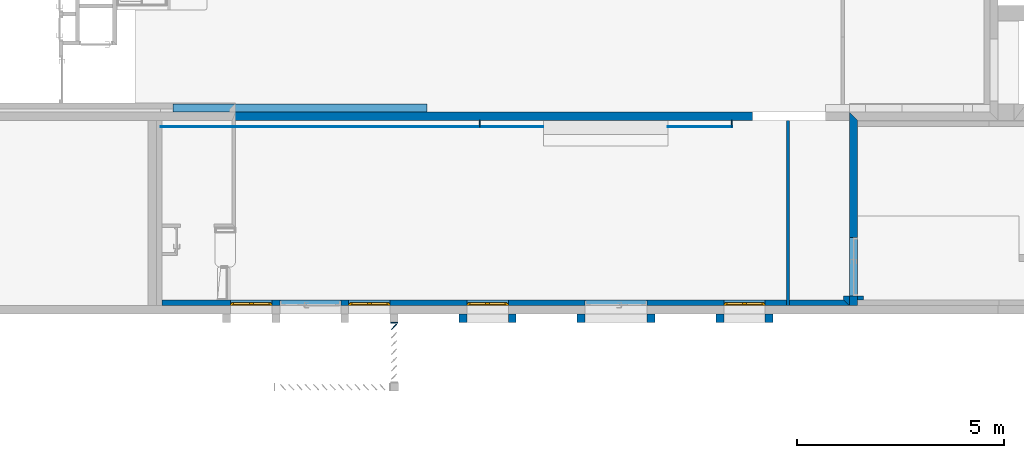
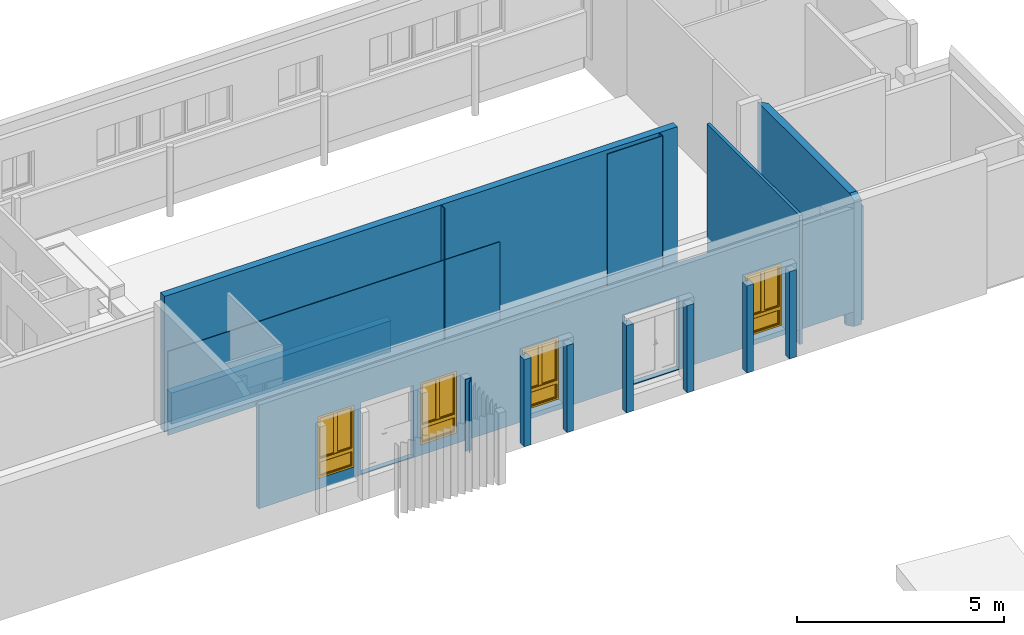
# One storey, part 4 of 34: 19 walls, 4 windows, 7 openings.
"""IFC2X3 building model written with IfcOpenShell, lengths in metres."""

from ifc_helpers import new_model, entity, si_unit, converted_unit, derived_unit, money_unit, direction, frame, origin_with_axes, origin_2d_with_axis, place, context, subcontext, project, spatial, polyline, rectangle, outline, extrude, clip, halfspace, open_shell, faceted_brep, surface_model, source, transform, mapped, material, layer, layer_set, layer_usage, type_object, element, fill, save


model = new_model("IFC2X3")

# Units and contexts
model_context = context("Model", 3, precision=1e-05, world=origin_with_axes(), true_north=direction((0.0, 1.0)))
body_context = subcontext(model_context, "Body", "Model", "MODEL_VIEW")
ifc_project = project(units=[si_unit("LENGTHUNIT", "METRE"), si_unit("AREAUNIT", "SQUARE_METRE"), si_unit("VOLUMEUNIT", "CUBIC_METRE"), converted_unit("PLANEANGLEUNIT", "DEGREE", entity("IfcPlaneAngleMeasure", 0.0174532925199), si_unit("PLANEANGLEUNIT", "RADIAN"), dimensions=[0, 0, 0, 0, 0, 0, 0]), money_unit("CHF"), converted_unit("TIMEUNIT", "Year", entity("IfcTimeMeasure", 31556926.0), si_unit("TIMEUNIT", "SECOND"), dimensions=[0, 0, 1, 0, 0, 0, 0]), si_unit("MASSUNIT", "GRAM", prefix="KILO"), si_unit("THERMODYNAMICTEMPERATUREUNIT", "DEGREE_CELSIUS"), si_unit("LUMINOUSINTENSITYUNIT", "LUMEN"), si_unit("ENERGYUNIT", "JOULE", prefix="MEGA"), derived_unit("THERMALCONDUCTANCEUNIT", [(si_unit("POWERUNIT", "WATT"), 1), (si_unit("LENGTHUNIT", "METRE"), -1), (si_unit("THERMODYNAMICTEMPERATUREUNIT", "KELVIN"), -1)]), derived_unit("SPECIFICHEATCAPACITYUNIT", [(si_unit("ENERGYUNIT", "JOULE"), 1), (si_unit("MASSUNIT", "GRAM", prefix="KILO"), -1), (si_unit("THERMODYNAMICTEMPERATUREUNIT", "KELVIN"), -1)]), derived_unit("MASSDENSITYUNIT", [(si_unit("MASSUNIT", "GRAM", prefix="KILO"), 1), (si_unit("VOLUMEUNIT", "CUBIC_METRE"), -1)])], contexts=[model_context])

# Site, building, storey
site_placement = place(None, origin_with_axes())
site = spatial("IfcSite", under=ifc_project, at=site_placement, Name="Site", CompositionType="ELEMENT")
building_placement = place(site_placement, origin_with_axes())
building = spatial("IfcBuilding", under=site, at=building_placement, Name="Bâtiment", CompositionType="ELEMENT")
storey_placement = place(building_placement, origin_with_axes())
storey = spatial("IfcBuildingStorey", under=building, at=storey_placement, Name="RDC", CompositionType="ELEMENT", Elevation=-5.32907e-15)

# Wall, opening
ifc_material_1 = material(Name="Diagonales 1167258944")
ifc_layer_1 = layer(ifc_material_1, 0.2, ventilated="UNKNOWN")
ifc_layer_set_1 = layer_set([ifc_layer_1], Name="Diagonales 1167258944 0.2")
ifc_layer_usage_1 = layer_usage(ifc_layer_set_1, "AXIS2", "NEGATIVE", 0.0)
wall_type_1 = type_object("IfcWallType", Name="Diagonales 1167258944 200", PredefinedType="NOTDEFINED")
wall_1_placement = place(storey_placement, frame((1692.16729001, 177.38004191, 0.0), z_axis=(0.0, 0.0, 1.0), x_axis=(0.0, 1.0, 0.0)))
wall_1 = element("IfcWallStandardCase", 1, at=wall_1_placement, inside=storey, type_object=wall_type_1, material=ifc_layer_usage_1, Name="Mur-009", context=body_context, shape_type="Clipping", body=[
    clip(extrude(outline(polyline([(0.2, -0.2), (4.67, -0.2), (4.87, 0.0), (0.2, 0.0), (0.2, -0.2)])), origin_with_axes(), (0.0, 0.0, 1.0), 3.8), halfspace(frame((-1.35194463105, 0.0, 3.00400550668), z_axis=(0.410400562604, 0.0, -0.911905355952), x_axis=(0.0, 1.0, 0.0)), True)),
])
opening_1_placement = place(wall_1_placement, frame((1.14, 0.0, 0.47), z_axis=(0.0, 0.0, 1.0), x_axis=(1.0, 0.0, 0.0)))
element("IfcOpeningElement", 2, at=opening_1_placement, cuts=wall_1, Name="Por-006", context=body_context, shape_type="SweptSolid", body=[
    extrude(rectangle(XDim=1.4, YDim=2.1, at=origin_2d_with_axis()), frame((0.0, 0.2, 1.05), z_axis=(0.0, 1.0, 0.0), x_axis=(-1.0, 0.0, 0.0)), (0.0, 0.0, -1.0), 0.6),
])

# Walls
ifc_layer_usage_2 = layer_usage(ifc_layer_set_1, "AXIS2", "POSITIVE", 0.0)
wall_2_placement = place(storey_placement, frame((1675.84729001, 182.25004191, 0.0), z_axis=(0.0, 0.0, 1.0), x_axis=(1.0, 0.0, 0.0)))
element("IfcWallStandardCase", 3, at=wall_2_placement, inside=storey, type_object=wall_type_1, material=ifc_layer_usage_2, Name="Mur-002", context=body_context, shape_type="SweptSolid", body=[
    extrude(outline(polyline([(0.0, 0.0), (6.12425264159, 0.0), (6.12425264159, 0.2), (0.0, 0.2), (0.0, 0.0)])), origin_with_axes(), (0.0, 0.0, 1.0), 0.92),
])
ifc_layer_usage_3 = layer_usage(ifc_layer_set_1, "AXIS2", "NEGATIVE", 0.0)
wall_3_placement = place(storey_placement, frame((1689.82729035, 182.05004191, 0.0), z_axis=(0.0, 0.0, 1.0), x_axis=(-1.0, 0.0, 0.0)))
element("IfcWallStandardCase", 4, at=wall_3_placement, inside=storey, type_object=wall_type_1, material=ifc_layer_usage_3, Name="Mur-005", context=body_context, shape_type="SweptSolid", body=[
    extrude(outline(polyline([(0.0, -0.2), (14.2800003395, -0.2), (14.2800003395, 0.0), (0.0, 0.0), (0.0, -0.2)])), origin_with_axes(), (0.0, 0.0, 1.0), 4.0),
])

# Wall, openings, windows
ifc_material_2 = material(Name="Isolation laine de pierre 378182646")
ifc_layer_2 = layer(ifc_material_2, 0.12, ventilated="UNKNOWN")
ifc_material_3 = material(Name="Plâtre lissé 291446788")
ifc_layer_3 = layer(ifc_material_3, 0.02, ventilated="UNKNOWN")
ifc_layer_set_2 = layer_set([ifc_layer_2, ifc_layer_3], Name="DOUBLAGE ISO + BA13 14 CM")
ifc_layer_usage_4 = layer_usage(ifc_layer_set_2, "AXIS2", "POSITIVE", 0.0)
wall_type_2 = type_object("IfcWallType", Name="DOUBLAGE ISO + BA13 14 CM 140", PredefinedType="NOTDEFINED")
wall_4_placement = place(storey_placement, frame((1675.44729001, 177.58004191, 0.44), z_axis=(0.0, 0.0, 1.0), x_axis=(1.0, 0.0, 0.0)))
wall_4 = element("IfcWallStandardCase", 5, at=wall_4_placement, inside=storey, type_object=wall_type_2, material=ifc_layer_usage_4, Name="Mur-005", context=body_context, shape_type="SweptSolid", body=[
    extrude(outline(polyline([(0.14, 0.0), (16.71995181, 0.0), (16.57995181, 0.14), (0.14, 0.14), (0.14, 0.0)])), origin_with_axes(), (0.0, 0.0, 1.0), 3.05067199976),
])
opening_2_placement = place(wall_4_placement, frame((5.14, 0.0, 0.31), z_axis=(0.0, 0.0, 1.0), x_axis=(1.0, 0.0, 0.0)))
opening_2 = element("IfcOpeningElement", 6, at=opening_2_placement, cuts=wall_4, Name="Fen-003", context=body_context, shape_type="SweptSolid", body=[
    extrude(rectangle(XDim=1.0, YDim=1.82, at=origin_2d_with_axis()), frame((0.0, 0.14, 0.91), z_axis=(0.0, 1.0, 0.0), x_axis=(-1.0, 0.0, 0.0)), (0.0, 0.0, -1.0), 0.42),
])
opening_3_placement = place(wall_4_placement, frame((7.99, 0.0, 0.31), z_axis=(0.0, 0.0, 1.0), x_axis=(1.0, 0.0, 0.0)))
opening_3 = element("IfcOpeningElement", 7, at=opening_3_placement, cuts=wall_4, Name="Fen-003", context=body_context, shape_type="SweptSolid", body=[
    extrude(rectangle(XDim=1.0, YDim=1.82, at=origin_2d_with_axis()), frame((0.0, 0.14, 0.91), z_axis=(0.0, 1.0, 0.0), x_axis=(-1.0, 0.0, 0.0)), (0.0, 0.0, -1.0), 0.42),
])
opening_4_placement = place(wall_4_placement, frame((14.19, 0.0, 0.31), z_axis=(0.0, 0.0, 1.0), x_axis=(1.0, 0.0, 0.0)))
opening_4 = element("IfcOpeningElement", 8, at=opening_4_placement, cuts=wall_4, Name="Fen-003", context=body_context, shape_type="SweptSolid", body=[
    extrude(rectangle(XDim=1.0, YDim=1.82, at=origin_2d_with_axis()), frame((0.0, 0.14, 0.91), z_axis=(0.0, 1.0, 0.0), x_axis=(-1.0, 0.0, 0.0)), (0.0, 0.0, -1.0), 0.42),
])
opening_5_placement = place(wall_4_placement, frame((2.29, 0.0, 0.31), z_axis=(0.0, 0.0, 1.0), x_axis=(1.0, 0.0, 0.0)))
opening_5 = element("IfcOpeningElement", 9, at=opening_5_placement, cuts=wall_4, Name="Fen-004", context=body_context, shape_type="SweptSolid", body=[
    extrude(rectangle(XDim=1.0, YDim=1.82, at=origin_2d_with_axis()), frame((0.0, 0.14, 0.91), z_axis=(0.0, 1.0, 0.0), x_axis=(-1.0, 0.0, 0.0)), (0.0, 0.0, -1.0), 0.42),
])
opening_6_placement = place(wall_4_placement, frame((11.09, 0.0, 0.03), z_axis=(0.0, 0.0, 1.0), x_axis=(1.0, 0.0, 0.0)))
element("IfcOpeningElement", 10, at=opening_6_placement, cuts=wall_4, Name="Por-006", context=body_context, shape_type="SweptSolid", body=[
    extrude(rectangle(XDim=1.5, YDim=2.1, at=origin_2d_with_axis()), frame((0.0, 0.14, 1.05), z_axis=(0.0, -1.0, 0.0), x_axis=(-1.0, 0.0, 0.0)), (0.0, 0.0, 1.0), 0.42),
])
opening_7_placement = place(wall_4_placement, frame((3.715, 0.0, 0.03), z_axis=(0.0, 0.0, 1.0), x_axis=(1.0, 0.0, 0.0)))
element("IfcOpeningElement", 11, at=opening_7_placement, cuts=wall_4, Name="Por-006", context=body_context, shape_type="SweptSolid", body=[
    extrude(rectangle(XDim=1.47, YDim=2.1, at=origin_2d_with_axis()), frame((0.0, 0.14, 1.05), z_axis=(0.0, 1.0, 0.0), x_axis=(1.0, 0.0, 0.0)), (0.0, 0.0, -1.0), 0.42),
])
window_style = type_object("IfcWindowStyle", Name="Fenêtre châssis double 25", ConstructionType="NOTDEFINED", OperationType="TRIPLE_PANEL_BOTTOM", ParameterTakesPrecedence=False, Sizeable=False)
shared_shape = source(origin_with_axes(), body_context, "Body", "SurfaceModel", [
    faceted_brep([(0.475, 0.0, 1.77), (0.475, -0.025, 1.77), (0.45, -0.025, 1.77), (0.45, -0.05, 1.77), (0.5, -0.05, 1.77), (0.5, 0.0, 1.77), (0.475, 0.0, 0.545), (0.475, -0.025, 0.545), (0.45, -0.025, 0.57), (0.45, -0.025, 0.545), (0.45, -0.05, 0.57), (0.45, -0.05, 0.47), (0.45, -0.05, 0.05), (0.5, -0.05, 0.05), (0.5, 0.0, 0.05), (0.475, 0.0, 0.05), (0.475, 0.0, 0.495), (0.45, 0.0, 0.495), (0.45, 0.0, 0.545), (0.45, -0.025, 0.495), (0.45, -0.025, 0.47), (0.45, -0.025, 0.05), (0.475, -0.025, 0.05), (0.475, -0.025, 0.495)], [[[0, 1, 2, 3, 4, 5]], [[1, 0, 6, 7]], [[8, 2, 1, 7, 9]], [[2, 8, 10, 3]], [[10, 11, 12, 13, 4, 3]], [[5, 4, 13, 14]], [[6, 0, 5, 14, 15, 16, 17, 18]], [[6, 18, 9, 7]], [[9, 18, 17, 19, 20, 11, 10, 8]], [[20, 21, 12, 11]], [[22, 15, 14, 13, 12, 21]], [[16, 15, 22, 23]], [[19, 17, 16, 23]], [[20, 19, 23, 22, 21]]]),
    faceted_brep([(-0.45, -0.025, 1.77), (-0.475, -0.025, 1.77), (-0.475, 0.0, 1.77), (-0.5, 0.0, 1.77), (-0.5, -0.05, 1.77), (-0.45, -0.05, 1.77), (-0.45, -0.025, 0.57), (-0.45, -0.025, 0.545), (-0.475, -0.025, 0.545), (-0.475, 0.0, 0.545), (-0.45, 0.0, 0.545), (-0.45, 0.0, 0.495), (-0.475, 0.0, 0.495), (-0.475, 0.0, 0.05), (-0.5, 0.0, 0.05), (-0.5, -0.05, 0.05), (-0.45, -0.05, 0.05), (-0.45, -0.05, 0.47), (-0.45, -0.05, 0.57), (-0.45, -0.025, 0.47), (-0.45, -0.025, 0.495), (-0.475, -0.025, 0.495), (-0.475, -0.025, 0.05), (-0.45, -0.025, 0.05)], [[[0, 1, 2, 3, 4, 5]], [[1, 0, 6, 7, 8]], [[9, 2, 1, 8]], [[9, 10, 11, 12, 13, 14, 3, 2]], [[14, 15, 4, 3]], [[15, 16, 17, 18, 5, 4]], [[6, 0, 5, 18]], [[7, 6, 18, 17, 19, 20, 11, 10]], [[10, 9, 8, 7]], [[12, 11, 20, 21]], [[13, 12, 21, 22]], [[22, 23, 16, 15, 14, 13]], [[23, 19, 17, 16]], [[23, 22, 21, 20, 19]]]),
    faceted_brep([(0.45, -0.025, 0.57), (-0.45, -0.025, 0.57), (-0.45, -0.05, 0.57), (0.45, -0.05, 0.57), (-0.45, -0.025, 0.545), (0.45, -0.025, 0.545), (-0.45, 0.0, 0.545), (-0.45, 0.0, 0.495), (-0.45, -0.025, 0.495), (-0.45, -0.025, 0.47), (-0.45, -0.05, 0.47), (0.45, -0.05, 0.47), (0.45, -0.025, 0.47), (0.45, -0.025, 0.495), (0.45, 0.0, 0.495), (0.45, 0.0, 0.545)], [[[0, 1, 2, 3]], [[4, 1, 0, 5]], [[4, 6, 7, 8, 9, 10, 2, 1]], [[10, 11, 3, 2]], [[5, 0, 3, 11, 12, 13, 14, 15]], [[15, 6, 4, 5]], [[6, 15, 14, 7]], [[8, 7, 14, 13]], [[9, 8, 13, 12]], [[9, 12, 11, 10]]]),
    faceted_brep([(-0.45, -0.025, 0.05), (-0.475, -0.025, 0.05), (-0.475, 0.0, 0.05), (-0.5, 0.0, 0.05), (-0.5, -0.05, 0.05), (-0.45, -0.05, 0.05), (0.45, -0.025, 0.05), (0.475, -0.025, 0.05), (0.475, -0.025, 0.025), (-0.475, -0.025, 0.025), (-0.475, 0.0, 0.025), (0.475, 0.0, 0.025), (0.475, 0.0, 0.05), (0.5, 0.0, 0.05), (0.5, 0.0, 0.0), (-0.5, 0.0, 0.0), (-0.5, -0.05, 0.0), (0.5, -0.05, 0.05), (0.45, -0.05, 0.05), (0.5, -0.05, 0.0)], [[[0, 1, 2, 3, 4, 5]], [[1, 0, 6, 7, 8, 9]], [[10, 2, 1, 9]], [[11, 12, 13, 14, 15, 3, 2, 10]], [[15, 16, 4, 3]], [[17, 18, 5, 4, 16, 19]], [[6, 0, 5, 18]], [[7, 6, 18, 17, 13, 12]], [[7, 12, 11, 8]], [[11, 10, 9, 8]], [[13, 17, 19, 14]], [[14, 19, 16, 15]]]),
    faceted_brep([(0.475, 0.0, 1.77), (0.475, 0.0, 1.795), (-0.475, 0.0, 1.795), (-0.475, 0.0, 1.77), (-0.5, 0.0, 1.77), (-0.5, 0.0, 1.82), (0.5, 0.0, 1.82), (0.5, 0.0, 1.77), (0.475, -0.025, 1.77), (0.475, -0.025, 1.795), (-0.475, -0.025, 1.795), (-0.475, -0.025, 1.77), (-0.45, -0.025, 1.77), (-0.45, -0.05, 1.77), (-0.5, -0.05, 1.77), (-0.5, -0.05, 1.82), (0.5, -0.05, 1.82), (0.5, -0.05, 1.77), (0.45, -0.05, 1.77), (0.45, -0.025, 1.77)], [[[0, 1, 2, 3, 4, 5, 6, 7]], [[1, 0, 8, 9]], [[2, 1, 9, 10]], [[3, 2, 10, 11]], [[11, 12, 13, 14, 4, 3]], [[4, 14, 15, 5]], [[5, 15, 16, 6]], [[6, 16, 17, 7]], [[8, 0, 7, 17, 18, 19]], [[12, 11, 10, 9, 8, 19]], [[12, 19, 18, 13]], [[14, 13, 18, 17, 16, 15]]]),
    faceted_brep([(0.425, -0.025, 1.745), (0.475, -0.025, 1.745), (0.475, 0.025, 1.745), (0.425, 0.025, 1.745), (0.425, -0.025, 0.595), (0.475, -0.025, 0.595), (0.475, 0.025, 0.595), (0.425, 0.025, 0.595)], [[[0, 1, 2, 3]], [[0, 4, 5, 1]], [[1, 5, 6, 2]], [[3, 2, 6, 7]], [[4, 0, 3, 7]], [[5, 4, 7, 6]]]),
    faceted_brep([(0.05, -0.025, 0.595), (0.0, -0.025, 0.595), (0.0, 0.025, 0.595), (0.05, 0.025, 0.595), (0.05, -0.025, 1.745), (0.0, -0.025, 1.745), (0.0, 0.025, 1.745), (0.05, 0.025, 1.745)], [[[0, 1, 2, 3]], [[0, 4, 5, 1]], [[1, 5, 6, 2]], [[3, 2, 6, 7]], [[4, 0, 3, 7]], [[5, 4, 7, 6]]]),
    faceted_brep([(0.0, -0.025, 0.545), (0.0, -0.025, 0.595), (0.0, 0.025, 0.595), (0.0, 0.025, 0.545), (0.475, -0.025, 0.545), (0.475, -0.025, 0.595), (0.425, -0.025, 0.595), (0.05, -0.025, 0.595), (0.05, 0.025, 0.595), (0.425, 0.025, 0.595), (0.475, 0.025, 0.595), (0.475, 0.025, 0.545)], [[[0, 1, 2, 3]], [[0, 4, 5, 6, 7, 1]], [[1, 7, 8, 2]], [[3, 2, 8, 9, 10, 11]], [[4, 0, 3, 11]], [[5, 4, 11, 10]], [[6, 5, 10, 9]], [[7, 6, 9, 8]]]),
    faceted_brep([(0.475, -0.025, 1.795), (0.475, -0.025, 1.745), (0.475, 0.025, 1.745), (0.475, 0.025, 1.795), (0.0, -0.025, 1.795), (0.0, -0.025, 1.745), (0.05, -0.025, 1.745), (0.425, -0.025, 1.745), (0.425, 0.025, 1.745), (0.05, 0.025, 1.745), (0.0, 0.025, 1.745), (0.0, 0.025, 1.795)], [[[0, 1, 2, 3]], [[0, 4, 5, 6, 7, 1]], [[1, 7, 8, 2]], [[3, 2, 8, 9, 10, 11]], [[4, 0, 3, 11]], [[5, 4, 11, 10]], [[6, 5, 10, 9]], [[7, 6, 9, 8]]]),
    surface_model("IfcShellBasedSurfaceModel", [(0.425, -0.01, 0.595), (0.425, -0.01, 1.745), (0.05, -0.01, 1.745), (0.05, -0.01, 0.595)], [open_shell([[[0, 1, 2, 3]]])]),
    surface_model("IfcShellBasedSurfaceModel", [(0.425, 0.01, 0.595), (0.05, 0.01, 0.595), (0.05, 0.01, 1.745), (0.425, 0.01, 1.745)], [open_shell([[[0, 1, 2, 3]]])]),
    faceted_brep([(-0.05, -0.025, 1.745), (0.0, -0.025, 1.745), (0.0, 0.025, 1.745), (-0.05, 0.025, 1.745), (-0.05, -0.025, 0.595), (0.0, -0.025, 0.595), (0.0, 0.025, 0.595), (-0.05, 0.025, 0.595)], [[[0, 1, 2, 3]], [[0, 4, 5, 1]], [[1, 5, 6, 2]], [[3, 2, 6, 7]], [[4, 0, 3, 7]], [[5, 4, 7, 6]]]),
    faceted_brep([(-0.425, -0.025, 0.595), (-0.475, -0.025, 0.595), (-0.475, 0.025, 0.595), (-0.425, 0.025, 0.595), (-0.425, -0.025, 1.745), (-0.475, -0.025, 1.745), (-0.475, 0.025, 1.745), (-0.425, 0.025, 1.745)], [[[0, 1, 2, 3]], [[0, 4, 5, 1]], [[1, 5, 6, 2]], [[3, 2, 6, 7]], [[4, 0, 3, 7]], [[5, 4, 7, 6]]]),
    faceted_brep([(-0.475, -0.025, 0.545), (-0.475, -0.025, 0.595), (-0.475, 0.025, 0.595), (-0.475, 0.025, 0.545), (0.0, -0.025, 0.545), (0.0, -0.025, 0.595), (-0.05, -0.025, 0.595), (-0.425, -0.025, 0.595), (-0.425, 0.025, 0.595), (-0.05, 0.025, 0.595), (0.0, 0.025, 0.595), (0.0, 0.025, 0.545)], [[[0, 1, 2, 3]], [[0, 4, 5, 6, 7, 1]], [[1, 7, 8, 2]], [[3, 2, 8, 9, 10, 11]], [[4, 0, 3, 11]], [[5, 4, 11, 10]], [[6, 5, 10, 9]], [[7, 6, 9, 8]]]),
    faceted_brep([(0.0, -0.025, 1.795), (0.0, -0.025, 1.745), (0.0, 0.025, 1.745), (0.0, 0.025, 1.795), (-0.475, -0.025, 1.795), (-0.475, -0.025, 1.745), (-0.425, -0.025, 1.745), (-0.05, -0.025, 1.745), (-0.05, 0.025, 1.745), (-0.425, 0.025, 1.745), (-0.475, 0.025, 1.745), (-0.475, 0.025, 1.795)], [[[0, 1, 2, 3]], [[0, 4, 5, 6, 7, 1]], [[1, 7, 8, 2]], [[3, 2, 8, 9, 10, 11]], [[4, 0, 3, 11]], [[5, 4, 11, 10]], [[6, 5, 10, 9]], [[7, 6, 9, 8]]]),
    surface_model("IfcShellBasedSurfaceModel", [(-0.05, -0.01, 0.595), (-0.05, -0.01, 1.745), (-0.425, -0.01, 1.745), (-0.425, -0.01, 0.595)], [open_shell([[[0, 1, 2, 3]]])]),
    surface_model("IfcShellBasedSurfaceModel", [(-0.05, 0.01, 0.595), (-0.425, 0.01, 0.595), (-0.425, 0.01, 1.745), (-0.05, 0.01, 1.745)], [open_shell([[[0, 1, 2, 3]]])]),
    faceted_brep([(0.425, -0.025, 0.445), (0.475, -0.025, 0.445), (0.475, 0.025, 0.445), (0.425, 0.025, 0.445), (0.425, -0.025, 0.075), (0.475, -0.025, 0.075), (0.475, 0.025, 0.075), (0.425, 0.025, 0.075)], [[[0, 1, 2, 3]], [[0, 4, 5, 1]], [[1, 5, 6, 2]], [[3, 2, 6, 7]], [[4, 0, 3, 7]], [[5, 4, 7, 6]]]),
    faceted_brep([(-0.425, -0.025, 0.075), (-0.475, -0.025, 0.075), (-0.475, 0.025, 0.075), (-0.425, 0.025, 0.075), (-0.425, -0.025, 0.445), (-0.475, -0.025, 0.445), (-0.475, 0.025, 0.445), (-0.425, 0.025, 0.445)], [[[0, 1, 2, 3]], [[0, 4, 5, 1]], [[1, 5, 6, 2]], [[3, 2, 6, 7]], [[4, 0, 3, 7]], [[5, 4, 7, 6]]]),
    faceted_brep([(-0.475, -0.025, 0.025), (-0.475, -0.025, 0.075), (-0.475, 0.025, 0.075), (-0.475, 0.025, 0.025), (0.475, -0.025, 0.025), (0.475, -0.025, 0.075), (0.425, -0.025, 0.075), (-0.425, -0.025, 0.075), (-0.425, 0.025, 0.075), (0.425, 0.025, 0.075), (0.475, 0.025, 0.075), (0.475, 0.025, 0.025)], [[[0, 1, 2, 3]], [[0, 4, 5, 6, 7, 1]], [[1, 7, 8, 2]], [[3, 2, 8, 9, 10, 11]], [[4, 0, 3, 11]], [[5, 4, 11, 10]], [[6, 5, 10, 9]], [[7, 6, 9, 8]]]),
    faceted_brep([(0.475, -0.025, 0.495), (0.475, -0.025, 0.445), (0.475, 0.025, 0.445), (0.475, 0.025, 0.495), (-0.475, -0.025, 0.495), (-0.475, -0.025, 0.445), (-0.425, -0.025, 0.445), (0.425, -0.025, 0.445), (0.425, 0.025, 0.445), (-0.425, 0.025, 0.445), (-0.475, 0.025, 0.445), (-0.475, 0.025, 0.495)], [[[0, 1, 2, 3]], [[0, 4, 5, 6, 7, 1]], [[1, 7, 8, 2]], [[3, 2, 8, 9, 10, 11]], [[4, 0, 3, 11]], [[5, 4, 11, 10]], [[6, 5, 10, 9]], [[7, 6, 9, 8]]]),
    surface_model("IfcShellBasedSurfaceModel", [(0.425, -0.01, 0.075), (0.425, -0.01, 0.445), (-0.425, -0.01, 0.445), (-0.425, -0.01, 0.075)], [open_shell([[[0, 1, 2, 3]]])]),
    surface_model("IfcShellBasedSurfaceModel", [(0.425, 0.01, 0.075), (-0.425, 0.01, 0.075), (-0.425, 0.01, 0.445), (0.425, 0.01, 0.445)], [open_shell([[[0, 1, 2, 3]]])]),
])
window_1_placement = place(opening_2_placement, frame((-0.5, 0.0, 0.0), z_axis=(0.0, 0.0, 1.0), x_axis=(1.0, 0.0, 0.0)))
window_1 = element("IfcWindow", 12, at=window_1_placement, inside=storey, type_object=window_style, Name="Fen-003", OverallHeight=1.82, OverallWidth=1.0, context=body_context, shape_type="MappedRepresentation", body=[
    mapped(shared_shape, transform((0.5, 0.05, 0.0))),
])
fill(opening_2, window_1)
window_2_placement = place(opening_3_placement, frame((-0.5, 0.0, 0.0), z_axis=(0.0, 0.0, 1.0), x_axis=(1.0, 0.0, 0.0)))
window_2 = element("IfcWindow", 13, at=window_2_placement, inside=storey, type_object=window_style, Name="Fen-003", OverallHeight=1.82, OverallWidth=1.0, context=body_context, shape_type="MappedRepresentation", body=[
    mapped(shared_shape, transform((0.5, 0.05, 0.0))),
])
fill(opening_3, window_2)
window_3_placement = place(opening_4_placement, frame((-0.5, 0.0, 0.0), z_axis=(0.0, 0.0, 1.0), x_axis=(1.0, 0.0, 0.0)))
window_3 = element("IfcWindow", 14, at=window_3_placement, inside=storey, type_object=window_style, Name="Fen-003", OverallHeight=1.82, OverallWidth=1.0, context=body_context, shape_type="MappedRepresentation", body=[
    mapped(shared_shape, transform((0.5, 0.05, 0.0))),
])
fill(opening_4, window_3)
window_4_placement = place(opening_5_placement, frame((-0.5, 0.0, 0.0), z_axis=(0.0, 0.0, 1.0), x_axis=(1.0, 0.0, 0.0)))
window_4 = element("IfcWindow", 15, at=window_4_placement, inside=storey, type_object=window_style, Name="Fen-004", OverallHeight=1.82, OverallWidth=1.0, context=body_context, shape_type="MappedRepresentation", body=[
    mapped(shared_shape, transform((0.5, 0.05, 0.0))),
])
fill(opening_5, window_4)

# Walls
ifc_layer_usage_5 = layer_usage(ifc_layer_set_2, "AXIS2", "POSITIVE", 0.0)
wall_5_placement = place(storey_placement, frame((1692.16724182, 177.58004191, 0.0), z_axis=(0.0, 0.0, 1.0), x_axis=(0.0, 1.0, 0.0)))
element("IfcWallStandardCase", 16, at=wall_5_placement, inside=storey, type_object=wall_type_2, material=ifc_layer_usage_5, Name="Mur-006", context=body_context, shape_type="SweptSolid", body=[
    extrude(outline(polyline([(0.0, 0.0), (0.24, 0.0), (0.24, 0.14), (0.14, 0.14), (0.0, 0.0)])), origin_with_axes(), (0.0, 0.0, 1.0), 3.3599999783),
])
ifc_layer_usage_6 = layer_usage(ifc_layer_set_2, "AXIS2", "NEGATIVE", 0.0)
wall_6_placement = place(storey_placement, frame((1692.36729001, 177.58004191, 0.0), z_axis=(0.0, 0.0, 1.0), x_axis=(0.0, 1.0, 0.0)))
element("IfcWallStandardCase", 17, at=wall_6_placement, inside=storey, type_object=wall_type_2, material=ifc_layer_usage_6, Name="Mur-005", context=body_context, shape_type="SweptSolid", body=[
    extrude(outline(polyline([(0.14, -0.14), (0.24, -0.14), (0.24, 0.0), (0.14, 0.0), (0.14, -0.14)])), origin_with_axes(), (0.0, 0.0, 1.0), 3.3599999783),
])
ifc_material_4 = material(Name="Métal 368073405")
ifc_layer_4 = layer(ifc_material_4, 0.02, ventilated="UNKNOWN")
ifc_layer_set_3 = layer_set([ifc_layer_4], Name="Métal 368073405 0.02")
ifc_layer_usage_7 = layer_usage(ifc_layer_set_3, "AXIS2", "NEGATIVE", 0.0)
wall_type_3 = type_object("IfcWallType", Name="Métal 368073405 20", PredefinedType="NOTDEFINED")
wall_7_placement = place(storey_placement, frame((1681.10005975, 177.18004191, 0.45), z_axis=(0.0, 0.0, 1.0), x_axis=(1.0, 0.0, 0.0)))
element("IfcWallStandardCase", 18, at=wall_7_placement, inside=storey, type_object=wall_type_3, material=ifc_layer_usage_7, Name="Mur-011", context=body_context, shape_type="SweptSolid", body=[
    extrude(outline(polyline([(0.0, -0.02), (0.17446052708, -0.02), (0.17446052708, 0.0), (0.0, 0.0), (0.0, -0.02)])), origin_with_axes(), (0.0, 0.0, 1.0), 2.12),
])
ifc_layer_usage_8 = layer_usage(ifc_layer_set_3, "AXIS2", "POSITIVE", 0.0)
wall_8_placement = place(storey_placement, frame((1681.1256089, 177.000814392, 0.500875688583), z_axis=(0.0, 0.0, 1.0), x_axis=(0.707106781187, 0.707106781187, 0.0)))
element("IfcWallStandardCase", 19, at=wall_8_placement, inside=storey, type_object=wall_type_3, material=ifc_layer_usage_8, Name="Mur-011", context=body_context, shape_type="SweptSolid", body=[
    extrude(outline(polyline([(0.0, 0.0), (0.17446052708, 0.0), (0.17446052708, 0.02), (0.0, 0.02), (0.0, 0.0)])), origin_with_axes(), (0.0, 0.0, 1.0), 2.06912431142),
])
ifc_layer_5 = layer(ifc_material_1, 0.19, ventilated="UNKNOWN")
ifc_layer_set_4 = layer_set([ifc_layer_5], Name="Diagonales 1167258944 0.19")
ifc_layer_usage_9 = layer_usage(ifc_layer_set_4, "AXIS2", "POSITIVE", 0.0)
wall_type_4 = type_object("IfcWallType", Name="Diagonales 1167258944 190", PredefinedType="NOTDEFINED")
wall_9_placement = place(storey_placement, frame((1690.13729001, 177.38004191, 0.0), z_axis=(0.0, 0.0, 1.0), x_axis=(0.0, -1.0, 0.0)))
element("IfcWallStandardCase", 20, at=wall_9_placement, inside=storey, type_object=wall_type_4, material=ifc_layer_usage_9, Name="Mur-006", context=body_context, shape_type="SweptSolid", body=[
    extrude(outline(polyline([(0.0, 0.0), (0.2, 0.0), (0.2, 0.19), (0.0, 0.19), (0.0, 0.0)])), origin_with_axes(), (0.0, 0.0, 1.0), 2.57),
])
ifc_layer_usage_10 = layer_usage(ifc_layer_set_4, "AXIS2", "POSITIVE", 0.0)
wall_10_placement = place(storey_placement, frame((1687.28729001, 177.38004191, 0.0), z_axis=(0.0, 0.0, 1.0), x_axis=(0.0, -1.0, 0.0)))
element("IfcWallStandardCase", 21, at=wall_10_placement, inside=storey, type_object=wall_type_4, material=ifc_layer_usage_10, Name="Mur-008", context=body_context, shape_type="SweptSolid", body=[
    extrude(outline(polyline([(0.0, 0.0), (0.2, 0.0), (0.2, 0.19), (0.0, 0.19), (0.0, 0.0)])), origin_with_axes(), (0.0, 0.0, 1.0), 2.57),
])
ifc_layer_usage_11 = layer_usage(ifc_layer_set_4, "AXIS2", "NEGATIVE", 0.0)
wall_11_placement = place(storey_placement, frame((1682.93729001, 177.38004191, 0.0), z_axis=(0.0, 0.0, 1.0), x_axis=(0.0, -1.0, 0.0)))
element("IfcWallStandardCase", 22, at=wall_11_placement, inside=storey, type_object=wall_type_4, material=ifc_layer_usage_11, Name="Mur-009", context=body_context, shape_type="SweptSolid", body=[
    extrude(outline(polyline([(0.0, -0.19), (0.2, -0.19), (0.2, 0.0), (0.0, 0.0), (0.0, -0.19)])), origin_with_axes(), (0.0, 0.0, 1.0), 2.57),
])
ifc_layer_usage_12 = layer_usage(ifc_layer_set_4, "AXIS2", "POSITIVE", 0.0)
wall_12_placement = place(storey_placement, frame((1683.93729001, 177.38004191, 0.0), z_axis=(0.0, 0.0, 1.0), x_axis=(0.0, -1.0, 0.0)))
element("IfcWallStandardCase", 23, at=wall_12_placement, inside=storey, type_object=wall_type_4, material=ifc_layer_usage_12, Name="Mur-008", context=body_context, shape_type="SweptSolid", body=[
    extrude(outline(polyline([(0.0, 0.0), (0.2, 0.0), (0.2, 0.19), (0.0, 0.19), (0.0, 0.0)])), origin_with_axes(), (0.0, 0.0, 1.0), 2.57),
])
ifc_layer_usage_13 = layer_usage(ifc_layer_set_4, "AXIS2", "NEGATIVE", 0.0)
wall_13_placement = place(storey_placement, frame((1685.78729001, 177.38004191, 0.0), z_axis=(0.0, 0.0, 1.0), x_axis=(0.0, -1.0, 0.0)))
element("IfcWallStandardCase", 24, at=wall_13_placement, inside=storey, type_object=wall_type_4, material=ifc_layer_usage_13, Name="Mur-009", context=body_context, shape_type="SweptSolid", body=[
    extrude(outline(polyline([(0.0, -0.19), (0.2, -0.19), (0.2, 0.0), (0.0, 0.0), (0.0, -0.19)])), origin_with_axes(), (0.0, 0.0, 1.0), 2.57),
])
ifc_layer_usage_14 = layer_usage(ifc_layer_set_4, "AXIS2", "NEGATIVE", 0.0)
wall_14_placement = place(storey_placement, frame((1689.13729001, 177.38004191, 0.0), z_axis=(0.0, 0.0, 1.0), x_axis=(0.0, -1.0, 0.0)))
element("IfcWallStandardCase", 25, at=wall_14_placement, inside=storey, type_object=wall_type_4, material=ifc_layer_usage_14, Name="Mur-007", context=body_context, shape_type="SweptSolid", body=[
    extrude(outline(polyline([(0.0, -0.19), (0.2, -0.19), (0.2, 0.0), (0.0, 0.0), (0.0, -0.19)])), origin_with_axes(), (0.0, 0.0, 1.0), 2.57),
])
ifc_layer_6 = layer(ifc_material_3, 0.018, ventilated="UNKNOWN")
ifc_material_5 = material(Name="Isolation laine de pierre 378641718")
ifc_layer_7 = layer(ifc_material_5, 0.045, ventilated="UNKNOWN")
ifc_layer_8 = layer(ifc_material_3, 0.018, ventilated="UNKNOWN")
ifc_layer_set_5 = layer_set([ifc_layer_6, ifc_layer_7, ifc_layer_8], Name="CLOISON 84/45 iso")
ifc_layer_usage_15 = layer_usage(ifc_layer_set_5, "AXIS2", "NEGATIVE", 0.0)
wall_type_5 = type_object("IfcWallType", Name="CLOISON 84/45 iso 81", PredefinedType="NOTDEFINED")
wall_15_placement = place(storey_placement, frame((1690.64729001, 177.58004191, 0.0), z_axis=(0.0, 0.0, 1.0), x_axis=(0.0, 1.0, 0.0)))
element("IfcWallStandardCase", 26, at=wall_15_placement, inside=storey, type_object=wall_type_5, material=ifc_layer_usage_15, Name="Mur-013", context=body_context, shape_type="SweptSolid", body=[
    extrude(outline(polyline([(0.0, -0.081), (4.47, -0.081), (4.47, 0.0), (0.0, 0.0), (0.0, -0.081)])), origin_with_axes(), (0.0, 0.0, 1.0), 3.8),
])
ifc_material_6 = material(Name="Plâtre cloisons 1818619258")
ifc_layer_9 = layer(ifc_material_6, 0.02, ventilated="UNKNOWN")
ifc_layer_set_6 = layer_set([ifc_layer_9], Name="Plâtre cloisons 1818619258 0.02")
ifc_layer_usage_16 = layer_usage(ifc_layer_set_6, "AXIS2", "NEGATIVE", 0.0)
wall_type_6 = type_object("IfcWallType", Name="Plâtre cloisons 1818619258 20", PredefinedType="NOTDEFINED")
wall_16_placement = place(storey_placement, frame((1689.33729001, 181.89004191, 0.0), z_axis=(0.0, 0.0, 1.0), x_axis=(-1.0, 0.0, 0.0)))
element("IfcWallStandardCase", 27, at=wall_16_placement, inside=storey, type_object=wall_type_6, material=ifc_layer_usage_16, Name="Mur-006", context=body_context, shape_type="SweptSolid", body=[
    extrude(outline(polyline([(0.0, -0.02), (1.55, -0.02), (1.55, 0.0), (0.0, 0.0), (0.0, -0.02)])), origin_with_axes(), (0.0, 0.0, 1.0), 4.0),
])
ifc_layer_usage_17 = layer_usage(ifc_layer_set_6, "AXIS2", "POSITIVE", 0.0)
wall_17_placement = place(storey_placement, frame((1675.54729001, 181.89004191, 0.0), z_axis=(0.0, 0.0, 1.0), x_axis=(1.0, 0.0, 0.0)))
element("IfcWallStandardCase", 28, at=wall_17_placement, inside=storey, type_object=wall_type_6, material=ifc_layer_usage_17, Name="Mur-006", context=body_context, shape_type="SweptSolid", body=[
    extrude(outline(polyline([(0.0, 0.0), (9.24, 0.0), (9.24, 0.02), (0.0, 0.02), (0.0, 0.0)])), origin_with_axes(), (0.0, 0.0, 1.0), 2.47),
])
ifc_layer_usage_18 = layer_usage(ifc_layer_set_6, "AXIS2", "POSITIVE", 0.0)
wall_18_placement = place(storey_placement, frame((1683.23729001, 182.05004191, 0.0), z_axis=(0.0, 0.0, 1.0), x_axis=(0.0, -1.0, 0.0)))
element("IfcWallStandardCase", 29, at=wall_18_placement, inside=storey, type_object=wall_type_6, material=ifc_layer_usage_18, Name="Mur-005", context=body_context, shape_type="SweptSolid", body=[
    extrude(outline(polyline([(0.0, 0.0), (0.16, 0.0), (0.16, 0.02), (0.0, 0.02), (0.0, 0.0)])), origin_with_axes(), (0.0, 0.0, 1.0), 4.0),
])
ifc_layer_usage_19 = layer_usage(ifc_layer_set_6, "AXIS2", "NEGATIVE", 0.0)
wall_19_placement = place(storey_placement, frame((1689.33729001, 182.05004191, 0.0), z_axis=(0.0, 0.0, 1.0), x_axis=(0.0, -1.0, 0.0)))
element("IfcWallStandardCase", 30, at=wall_19_placement, inside=storey, type_object=wall_type_6, material=ifc_layer_usage_19, Name="Mur-005", context=body_context, shape_type="SweptSolid", body=[
    extrude(outline(polyline([(0.0, -0.02), (0.16, -0.02), (0.16, 0.0), (0.0, 0.0), (0.0, -0.02)])), origin_with_axes(), (0.0, 0.0, 1.0), 4.0),
])

save(model, "model.ifc")
